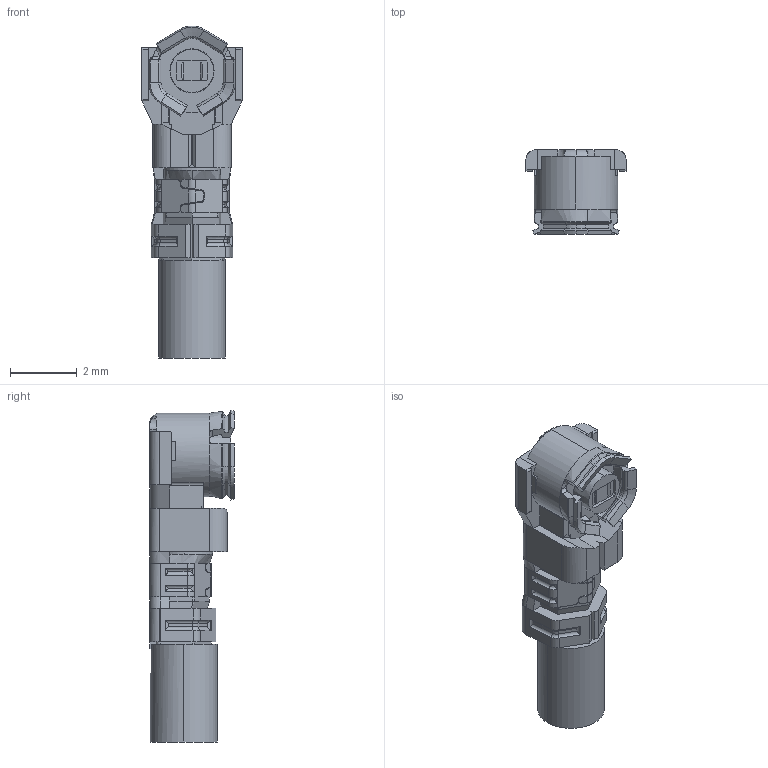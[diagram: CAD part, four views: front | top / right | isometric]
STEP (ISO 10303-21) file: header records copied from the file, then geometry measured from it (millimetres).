
FILE_DESCRIPTION (( 'STEP AP203' ), '1' );
FILE_NAME ('20767C-PLUG ASS''Y R3 STEP SONOS.STEP', '2018-09-27T11:32:11', ( '' ), ( '' ), 'SwSTEP 2.0', 'SolidWorks 2017', '' );
FILE_SCHEMA (( 'CONFIG_CONTROL_DESIGN' ));
Length unit declared in the file: millimetre
Products named in the file (1): 20767C-PLUG ASS''Y R3 STEP SONOS
Bounding box: 3 x 2.53 x 9.95 mm (x, y, z)
Volume: 38.1 mm3; surface area: 106 mm2
Topology: 1 solids, 1 shells, 441 faces, 1174 edges, 744 vertices
Faces by surface type: plane 228, cylinder 121, bspline 58, cone 20, torus 14
Entity records: 16294 total; most frequent: CARTESIAN_POINT 5800, ORIENTED_EDGE 2348, DIRECTION 1915, EDGE_CURVE 1174, LINE 749, VECTOR 749, VERTEX_POINT 744, AXIS2_PLACEMENT_3D 583
